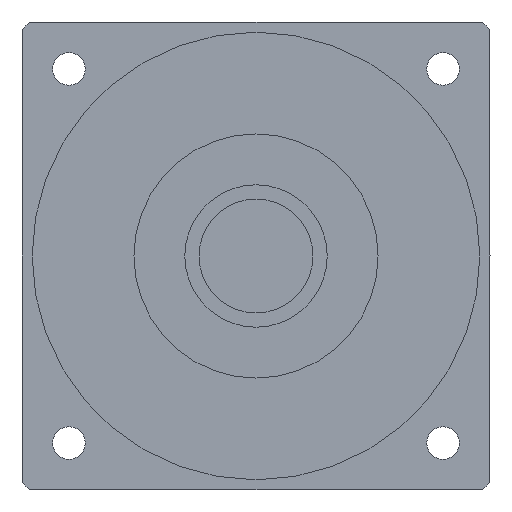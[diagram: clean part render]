
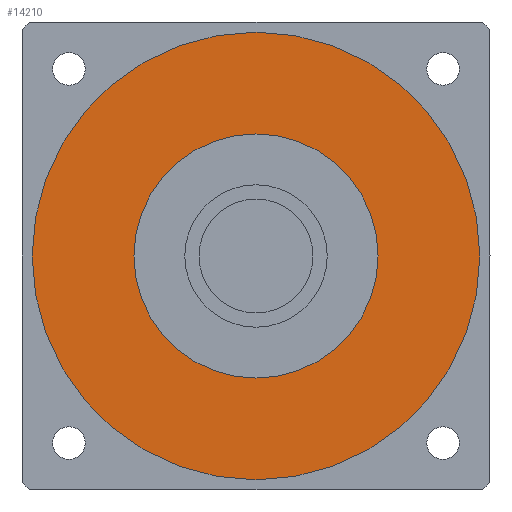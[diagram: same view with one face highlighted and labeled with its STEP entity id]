
A CAD part, left-side view. The second image highlights one B-rep face of the part: STEP entity #14210.
In plain terms, the highlighted planar face has unit normal (-1, 0, 0) as drawn and (0, 0, -1) by its records, which use the part's own axes.
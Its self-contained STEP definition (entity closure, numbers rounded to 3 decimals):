
#9310=CARTESIAN_POINT('',(30.,0.,-61.1));
#9320=VERTEX_POINT('',#9310);
#9350=CARTESIAN_POINT('',(0.,0.,
-61.1));
#9360=DIRECTION('',(0.,0.,1.));
#9370=DIRECTION('',(0.,1.,0.));
#9380=AXIS2_PLACEMENT_3D('',#9350,#9360,#9370);
#9390=CIRCLE('',#9380,30.);
#9400=CARTESIAN_POINT('',(0.,30.,-61.1));
#9410=VERTEX_POINT('',#9400);
#9420=EDGE_CURVE('',#9320,#9410,#9390,.T.);
#9440=CARTESIAN_POINT('',(-30.,0.,-61.1));
#9450=VERTEX_POINT('',#9440);
#9460=EDGE_CURVE('',#9410,#9450,#9390,.T.);
#13760=CARTESIAN_POINT('',(55.,0.,-61.1));
#13770=VERTEX_POINT('',#13760);
#13860=CARTESIAN_POINT('',(-55.,0.,-61.1));
#13870=VERTEX_POINT('',#13860);
#13900=CARTESIAN_POINT('',(0.,0.,
-61.1));
#13910=DIRECTION('',(0.,0.,1.));
#13920=DIRECTION('',(0.,1.,0.));
#13930=AXIS2_PLACEMENT_3D('',#13900,#13910,#13920);
#13940=CIRCLE('',#13930,55.);
#13950=CARTESIAN_POINT('',(0.,55.,-61.1));
#13960=VERTEX_POINT('',#13950);
#13970=EDGE_CURVE('',#13960,#13870,#13940,.T.);
#13990=EDGE_CURVE('',#13770,#13960,#13940,.T.);
#14040=CARTESIAN_POINT('',(0.,0.,
-61.1));
#14050=DIRECTION('',(0.,0.,1.));
#14060=DIRECTION('',(-1.,0.,0.));
#14070=AXIS2_PLACEMENT_3D('',#14040,#14050,#14060);
#14080=PLANE('',#14070);
#14090=ORIENTED_EDGE('',*,*,#13970,.F.);
#14100=EDGE_CURVE('',#13870,#13770,#13940,.T.);
#14110=ORIENTED_EDGE('',*,*,#14100,.F.);
#14120=ORIENTED_EDGE('',*,*,#13990,.F.);
#14130=EDGE_LOOP('',(#14120,#14110,#14090));
#14140=FACE_OUTER_BOUND('',#14130,.T.);
#14150=EDGE_CURVE('',#9450,#9320,#9390,.T.);
#14160=ORIENTED_EDGE('',*,*,#14150,.T.);
#14170=ORIENTED_EDGE('',*,*,#9460,.T.);
#14180=ORIENTED_EDGE('',*,*,#9420,.T.);
#14190=EDGE_LOOP('',(#14180,#14170,#14160));
#14200=FACE_BOUND('',#14190,.T.);
#14210=ADVANCED_FACE('',(#14140,#14200),#14080,.F.);
